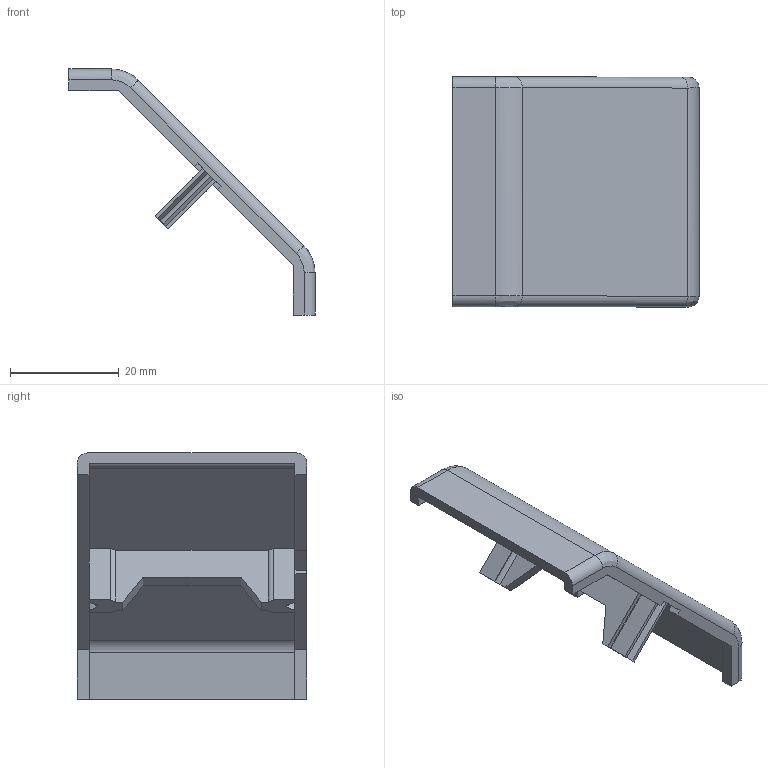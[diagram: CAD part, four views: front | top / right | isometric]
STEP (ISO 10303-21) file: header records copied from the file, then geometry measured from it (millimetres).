
FILE_DESCRIPTION (( 'STEP AP203' ), '1' );
FILE_NAME ('0110AKW4545.STEP', '2024-03-12T10:49:12', ( 'Windows-Benutzer' ), ( '' ), 'SwSTEP 2.0', 'SolidWorks 2023', '' );
FILE_SCHEMA (( 'CONFIG_CONTROL_DESIGN' ));
Length unit declared in the file: millimetre
Products named in the file (1): 0110AKW4545
Bounding box: 45.16 x 42.2 x 45.16 mm (x, y, z)
Volume: 7038.2 mm3; surface area: 7469.2 mm2
Topology: 1 solids, 1 shells, 73 faces, 201 edges, 130 vertices
Faces by surface type: plane 52, cylinder 17, bspline 4
Entity records: 2480 total; most frequent: CARTESIAN_POINT 575, ORIENTED_EDGE 402, DIRECTION 351, EDGE_CURVE 201, LINE 159, VECTOR 159, VERTEX_POINT 130, AXIS2_PLACEMENT_3D 96
